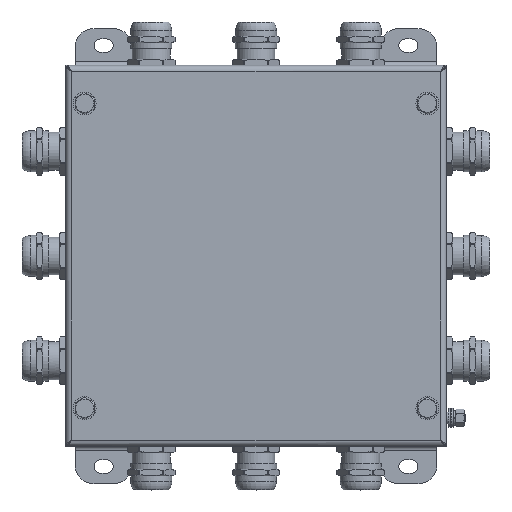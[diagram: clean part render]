
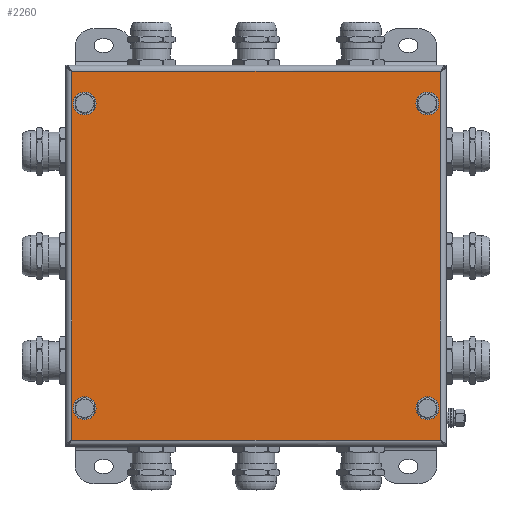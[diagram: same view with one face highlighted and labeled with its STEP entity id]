
A CAD part, top view. The second image highlights one B-rep face of the part: STEP entity #2260.
In plain terms, the highlighted planar face has unit normal (0, 0, 1).
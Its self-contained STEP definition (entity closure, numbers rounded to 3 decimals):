
#2260=ADVANCED_FACE('',(#15295,#15297,#15299,#15301,#15303),#15305,.T.);
#15295=FACE_BOUND('',#15296,.T.);
#15296=EDGE_LOOP('',(#21416,#21417,#21418,#21419));
#15297=FACE_BOUND('',#15298,.T.);
#15298=EDGE_LOOP('',(#21420));
#15299=FACE_BOUND('',#15300,.T.);
#15300=EDGE_LOOP('',(#21421));
#15301=FACE_BOUND('',#15302,.T.);
#15302=EDGE_LOOP('',(#21422));
#15303=FACE_BOUND('',#15304,.T.);
#15304=EDGE_LOOP('',(#21423));
#15305=PLANE('',#15306);
#15306=AXIS2_PLACEMENT_3D('',#15307,#15308,#15309);
#15307=CARTESIAN_POINT('',(0.,0.,61.5));
#15308=DIRECTION('',(0.,-0.,1.));
#15309=DIRECTION('',(0.,1.,0.));
#21416=ORIENTED_EDGE('',*,*,#26225,.T.);
#21417=ORIENTED_EDGE('',*,*,#26226,.T.);
#21418=ORIENTED_EDGE('',*,*,#26227,.T.);
#21419=ORIENTED_EDGE('',*,*,#26228,.T.);
#21420=ORIENTED_EDGE('',*,*,#24226,.T.);
#21421=ORIENTED_EDGE('',*,*,#24220,.T.);
#21422=ORIENTED_EDGE('',*,*,#24214,.T.);
#21423=ORIENTED_EDGE('',*,*,#24208,.T.);
#24208=EDGE_CURVE('',#33746,#33746,#33747,.F.);
#24214=EDGE_CURVE('',#33758,#33758,#33759,.F.);
#24220=EDGE_CURVE('',#33770,#33770,#33771,.F.);
#24226=EDGE_CURVE('',#33782,#33782,#33783,.F.);
#26225=EDGE_CURVE('',#34752,#34753,#34754,.T.);
#26226=EDGE_CURVE('',#34753,#34755,#34756,.T.);
#26227=EDGE_CURVE('',#34755,#34757,#34758,.T.);
#26228=EDGE_CURVE('',#34757,#34752,#34759,.T.);
#33746=VERTEX_POINT('',#36845);
#33747=CIRCLE('',#36846,6.);
#33758=VERTEX_POINT('',#36875);
#33759=CIRCLE('',#36876,6.);
#33770=VERTEX_POINT('',#36905);
#33771=CIRCLE('',#36906,6.);
#33782=VERTEX_POINT('',#36935);
#33783=CIRCLE('',#36936,6.);
#34752=VERTEX_POINT('',#39185);
#34753=VERTEX_POINT('',#39186);
#34754=LINE('',#39187,#39188);
#34755=VERTEX_POINT('',#39190);
#34756=LINE('',#39191,#39192);
#34757=VERTEX_POINT('',#39194);
#34758=LINE('',#39195,#39196);
#34759=LINE('',#39198,#39199);
#36845=CARTESIAN_POINT('',(96.,80.,61.5));
#36846=AXIS2_PLACEMENT_3D('',#36847,#36848,#36849);
#36847=CARTESIAN_POINT('',(90.,80.,61.5));
#36848=DIRECTION('',(0.,-0.,1.));
#36849=DIRECTION('',(1.,0.,0.));
#36875=CARTESIAN_POINT('',(-84.,80.,61.5));
#36876=AXIS2_PLACEMENT_3D('',#36877,#36878,#36879);
#36877=CARTESIAN_POINT('',(-90.,80.,61.5));
#36878=DIRECTION('',(0.,-0.,1.));
#36879=DIRECTION('',(1.,0.,0.));
#36905=CARTESIAN_POINT('',(96.,-80.,61.5));
#36906=AXIS2_PLACEMENT_3D('',#36907,#36908,#36909);
#36907=CARTESIAN_POINT('',(90.,-80.,61.5));
#36908=DIRECTION('',(0.,-0.,1.));
#36909=DIRECTION('',(1.,0.,0.));
#36935=CARTESIAN_POINT('',(-84.,-80.,61.5));
#36936=AXIS2_PLACEMENT_3D('',#36937,#36938,#36939);
#36937=CARTESIAN_POINT('',(-90.,-80.,61.5));
#36938=DIRECTION('',(0.,-0.,1.));
#36939=DIRECTION('',(1.,0.,0.));
#39185=CARTESIAN_POINT('',(-96.8,96.8,61.5));
#39186=CARTESIAN_POINT('',(-96.8,-96.8,61.5));
#39187=CARTESIAN_POINT('',(-96.8,96.8,61.5));
#39188=VECTOR('',#39189,1.);
#39189=DIRECTION('',(0.,-1.,0.));
#39190=CARTESIAN_POINT('',(96.8,-96.8,61.5));
#39191=CARTESIAN_POINT('',(-96.8,-96.8,61.5));
#39192=VECTOR('',#39193,1.);
#39193=DIRECTION('',(1.,0.,0.));
#39194=CARTESIAN_POINT('',(96.8,96.8,61.5));
#39195=CARTESIAN_POINT('',(96.8,-96.8,61.5));
#39196=VECTOR('',#39197,1.);
#39197=DIRECTION('',(0.,1.,0.));
#39198=CARTESIAN_POINT('',(96.8,96.8,61.5));
#39199=VECTOR('',#39200,1.);
#39200=DIRECTION('',(-1.,0.,0.));
